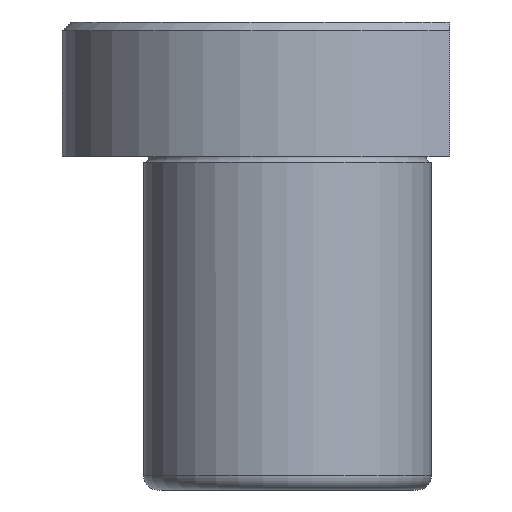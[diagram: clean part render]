
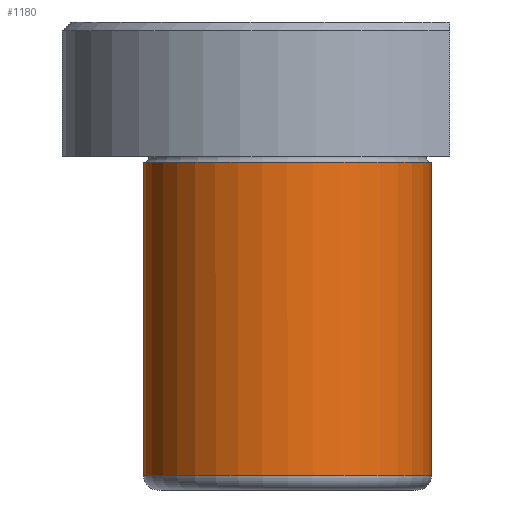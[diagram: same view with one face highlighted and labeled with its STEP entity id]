
A CAD part, front view. The second image highlights one B-rep face of the part: STEP entity #1180.
In plain terms, the highlighted cylindrical face has radius 16 mm (diameter 32 mm), a partial arc.
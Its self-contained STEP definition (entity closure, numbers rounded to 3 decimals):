
#992=CARTESIAN_POINT('Vertex',(16.,0.,-0.6)) ;
#994=CARTESIAN_POINT('Vertex',(-16.,0.,-0.6)) ;
#1019=CARTESIAN_POINT('Axis2P3D Location',(0.,0.,-0.6)) ;
#1126=CARTESIAN_POINT('Line Origine',(-16.,0.,15.)) ;
#1130=CARTESIAN_POINT('Vertex',(-16.,0.,-35.4)) ;
#1133=CARTESIAN_POINT('Line Origine',(16.,0.,15.)) ;
#1137=CARTESIAN_POINT('Vertex',(16.,0.,-35.4)) ;
#1164=CARTESIAN_POINT('Axis2P3D Location',(0.,0.,15.)) ;
#1169=CARTESIAN_POINT('Axis2P3D Location',(0.,0.,-35.4)) ;
#1020=DIRECTION('Axis2P3D Direction',(0.,-0.,1.)) ;
#1127=DIRECTION('Vector Direction',(0.,0.,-1.)) ;
#1134=DIRECTION('Vector Direction',(0.,0.,-1.)) ;
#1165=DIRECTION('Axis2P3D Direction',(0.,0.,-1.)) ;
#1166=DIRECTION('Axis2P3D XDirection',(1.,0.,0.)) ;
#1170=DIRECTION('Axis2P3D Direction',(0.,0.,-1.)) ;
#1021=AXIS2_PLACEMENT_3D('Circle Axis2P3D',#1019,#1020,$) ;
#1167=AXIS2_PLACEMENT_3D('Cylinder Axis2P3D',#1164,#1165,#1166) ;
#1171=AXIS2_PLACEMENT_3D('Circle Axis2P3D',#1169,#1170,$) ;
#1175=ORIENTED_EDGE('',*,*,#1139,.T.) ;
#1176=ORIENTED_EDGE('',*,*,#1023,.F.) ;
#1177=ORIENTED_EDGE('',*,*,#1132,.T.) ;
#1178=ORIENTED_EDGE('',*,*,#1173,.T.) ;
#1128=VECTOR('Line Direction',#1127,1.) ;
#1135=VECTOR('Line Direction',#1134,1.) ;
#1180=ADVANCED_FACE('737-19',(#1179),#1168,.T.) ;
#1022=CIRCLE('generated circle',#1021,16.) ;
#1172=CIRCLE('generated circle',#1171,16.) ;
#1168=CYLINDRICAL_SURFACE('generated cylinder',#1167,16.) ;
#1023=EDGE_CURVE('',#995,#993,#1022,.T.) ;
#1132=EDGE_CURVE('',#995,#1131,#1129,.T.) ;
#1139=EDGE_CURVE('',#1138,#993,#1136,.F.) ;
#1173=EDGE_CURVE('',#1131,#1138,#1172,.F.) ;
#1174=EDGE_LOOP('',(#1175,#1176,#1177,#1178)) ;
#1179=FACE_OUTER_BOUND('',#1174,.T.) ;
#1129=LINE('Line',#1126,#1128) ;
#1136=LINE('Line',#1133,#1135) ;
#993=VERTEX_POINT('',#992) ;
#995=VERTEX_POINT('',#994) ;
#1131=VERTEX_POINT('',#1130) ;
#1138=VERTEX_POINT('',#1137) ;
